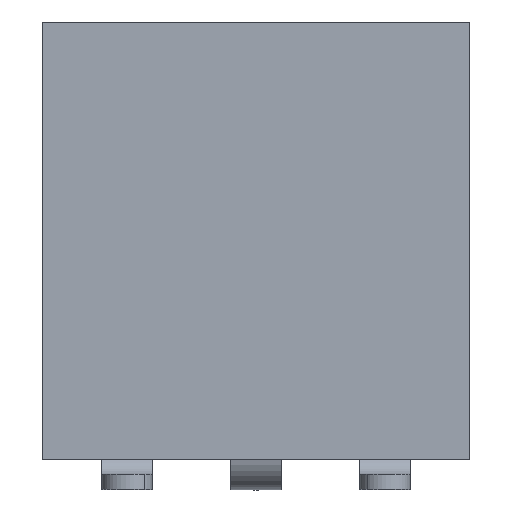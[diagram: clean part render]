
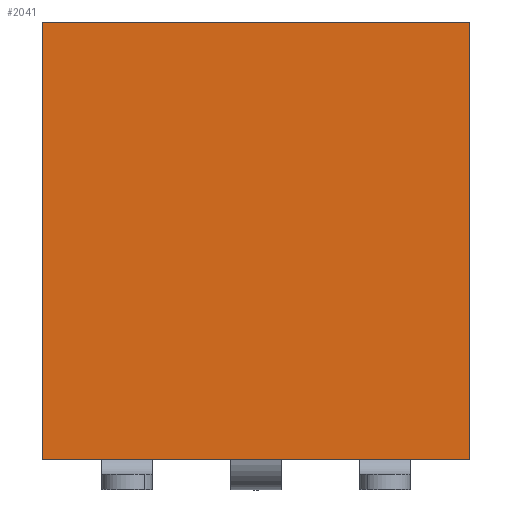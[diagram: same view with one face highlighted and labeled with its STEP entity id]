
A CAD part, top view. The second image highlights one B-rep face of the part: STEP entity #2041.
In plain terms, the highlighted planar face has unit normal (0, 0, 1).
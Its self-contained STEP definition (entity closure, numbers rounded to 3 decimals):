
#146 = VECTOR ( 'NONE', #885, 1000. ) ;
#222 = ORIENTED_EDGE ( 'NONE', *, *, #2063, .T. ) ;
#234 = VECTOR ( 'NONE', #1682, 1000. ) ;
#351 = VERTEX_POINT ( 'NONE', #794 ) ;
#400 = LINE ( 'NONE', #1823, #234 ) ;
#408 = CARTESIAN_POINT ( 'NONE',  ( -2.14, 4.3, 2.1 ) ) ;
#506 = LINE ( 'NONE', #1786, #1084 ) ;
#605 = EDGE_CURVE ( 'NONE', #641, #351, #726, .T. ) ;
#641 = VERTEX_POINT ( 'NONE', #1979 ) ;
#676 = DIRECTION ( 'NONE',  ( -1., 0., 0. ) ) ;
#726 = LINE ( 'NONE', #408, #146 ) ;
#794 = CARTESIAN_POINT ( 'NONE',  ( -5.08, 4.3, 2.1 ) ) ;
#864 = PLANE ( 'NONE',  #2034 ) ;
#878 = FACE_OUTER_BOUND ( 'NONE', #1824, .T. ) ;
#885 = DIRECTION ( 'NONE',  ( -1., 0., 0. ) ) ;
#903 = ORIENTED_EDGE ( 'NONE', *, *, #605, .T. ) ;
#919 = EDGE_CURVE ( 'NONE', #1016, #351, #2067, .T. ) ;
#1016 = VERTEX_POINT ( 'NONE', #1133 ) ;
#1060 = DIRECTION ( 'NONE',  ( 1., 0., 0. ) ) ;
#1084 = VECTOR ( 'NONE', #676, 1000. ) ;
#1086 = DIRECTION ( 'NONE',  ( 0., 1., 0. ) ) ;
#1133 = CARTESIAN_POINT ( 'NONE',  ( -5.08, 0., 2.1 ) ) ;
#1255 = CARTESIAN_POINT ( 'NONE',  ( -5.08, 0., 2.1 ) ) ;
#1310 = CARTESIAN_POINT ( 'NONE',  ( -0.87, 0., 2.1 ) ) ;
#1461 = EDGE_CURVE ( 'NONE', #1910, #1016, #506, .T. ) ;
#1589 = ORIENTED_EDGE ( 'NONE', *, *, #919, .F. ) ;
#1682 = DIRECTION ( 'NONE',  ( 0., 1., 0. ) ) ;
#1703 = CARTESIAN_POINT ( 'NONE',  ( 4.21, 0., 2.1 ) ) ;
#1712 = VECTOR ( 'NONE', #1086, 1000. ) ;
#1734 = ORIENTED_EDGE ( 'NONE', *, *, #1461, .F. ) ;
#1786 = CARTESIAN_POINT ( 'NONE',  ( -2.14, 0., 2.1 ) ) ;
#1823 = CARTESIAN_POINT ( 'NONE',  ( -0.87, 0., 2.1 ) ) ;
#1824 = EDGE_LOOP ( 'NONE', ( #1734, #222, #903, #1589 ) ) ;
#1830 = DIRECTION ( 'NONE',  ( 0., 0., 1. ) ) ;
#1910 = VERTEX_POINT ( 'NONE', #1310 ) ;
#1979 = CARTESIAN_POINT ( 'NONE',  ( -0.87, 4.3, 2.1 ) ) ;
#2034 = AXIS2_PLACEMENT_3D ( 'NONE', #1703, #1830, #1060 ) ;
#2041 = ADVANCED_FACE ( 'NONE', ( #878 ), #864, .T. ) ;
#2063 = EDGE_CURVE ( 'NONE', #1910, #641, #400, .T. ) ;
#2067 = LINE ( 'NONE', #1255, #1712 ) ;
